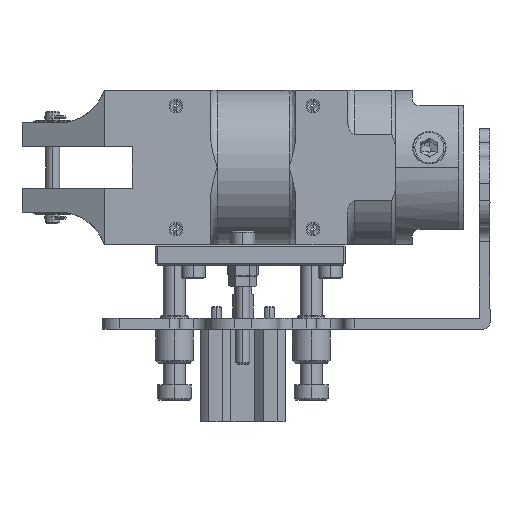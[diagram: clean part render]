
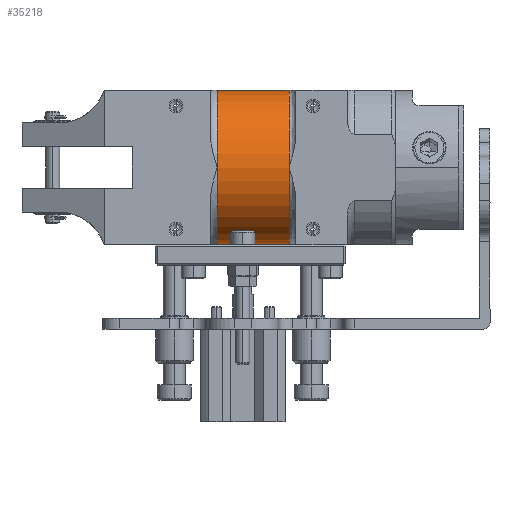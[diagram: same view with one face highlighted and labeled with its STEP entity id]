
A CAD part, left-side view. The second image highlights one B-rep face of the part: STEP entity #35218.
In plain terms, the highlighted cylindrical face has radius 22.5 mm (diameter 45 mm), a partial arc.
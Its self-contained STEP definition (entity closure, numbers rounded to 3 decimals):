
#72 = EDGE_CURVE ( 'NONE', #18204, #23416, #35655, .T. ) ;
#266 = VERTEX_POINT ( 'NONE', #23805 ) ;
#906 = DIRECTION ( 'NONE',  ( 0., 1., 0. ) ) ;
#1566 = VERTEX_POINT ( 'NONE', #16517 ) ;
#2054 = DIRECTION ( 'NONE',  ( 0., 0., 1. ) ) ;
#3197 = VECTOR ( 'NONE', #906, 1000. ) ;
#4223 = CARTESIAN_POINT ( 'NONE',  ( -2.637, 12.035, 25.5 ) ) ;
#4323 = ORIENTED_EDGE ( 'NONE', *, *, #22858, .F. ) ;
#7043 = DIRECTION ( 'NONE',  ( 0., 0., 1. ) ) ;
#9093 = AXIS2_PLACEMENT_3D ( 'NONE', #34023, #31234, #20020 ) ;
#9534 = VERTEX_POINT ( 'NONE', #36203 ) ;
#10126 = LINE ( 'NONE', #22754, #17586 ) ;
#10368 = ORIENTED_EDGE ( 'NONE', *, *, #72, .T. ) ;
#12314 = CIRCLE ( 'NONE', #29999, 22.5 ) ;
#13396 = ORIENTED_EDGE ( 'NONE', *, *, #29040, .T. ) ;
#14999 = CYLINDRICAL_SURFACE ( 'NONE', #9093, 22.5 ) ;
#15061 = CARTESIAN_POINT ( 'NONE',  ( -2.637, -8.965, 25.5 ) ) ;
#15486 = AXIS2_PLACEMENT_3D ( 'NONE', #35525, #18854, #2054 ) ;
#15550 = CIRCLE ( 'NONE', #16622, 22.5 ) ;
#16517 = CARTESIAN_POINT ( 'NONE',  ( -2.637, -8.965, 3. ) ) ;
#16622 = AXIS2_PLACEMENT_3D ( 'NONE', #15061, #34553, #17877 ) ;
#17586 = VECTOR ( 'NONE', #28215, 1000. ) ;
#17729 = CARTESIAN_POINT ( 'NONE',  ( -2.637, -8.965, 3. ) ) ;
#17877 = DIRECTION ( 'NONE',  ( 0., 0., 1. ) ) ;
#18204 = VERTEX_POINT ( 'NONE', #26219 ) ;
#18597 = ORIENTED_EDGE ( 'NONE', *, *, #23038, .T. ) ;
#18854 = DIRECTION ( 'NONE',  ( 0., -1., 0. ) ) ;
#20020 = DIRECTION ( 'NONE',  ( 0., 0., 1. ) ) ;
#21323 = EDGE_CURVE ( 'NONE', #9534, #1566, #21598, .T. ) ;
#21598 = CIRCLE ( 'NONE', #15486, 22.5 ) ;
#22754 = CARTESIAN_POINT ( 'NONE',  ( -2.637, -8.965, 48. ) ) ;
#22858 = EDGE_CURVE ( 'NONE', #266, #23416, #10126, .T. ) ;
#23038 = EDGE_CURVE ( 'NONE', #33470, #18204, #12314, .T. ) ;
#23416 = VERTEX_POINT ( 'NONE', #25752 ) ;
#23805 = CARTESIAN_POINT ( 'NONE',  ( -2.637, -8.965, 48. ) ) ;
#23837 = DIRECTION ( 'NONE',  ( 0., 1., 0. ) ) ;
#25752 = CARTESIAN_POINT ( 'NONE',  ( -2.637, 12.035, 48. ) ) ;
#26082 = ORIENTED_EDGE ( 'NONE', *, *, #28511, .F. ) ;
#26219 = CARTESIAN_POINT ( 'NONE',  ( -25.137, 12.035, 25.5 ) ) ;
#28215 = DIRECTION ( 'NONE',  ( 0., 1., 0. ) ) ;
#28511 = EDGE_CURVE ( 'NONE', #9534, #266, #15550, .T. ) ;
#29040 = EDGE_CURVE ( 'NONE', #1566, #33470, #31247, .T. ) ;
#29380 = EDGE_LOOP ( 'NONE', ( #33775, #13396, #18597, #10368, #4323, #26082 ) ) ;
#29805 = FACE_OUTER_BOUND ( 'NONE', #29380, .T. ) ;
#29999 = AXIS2_PLACEMENT_3D ( 'NONE', #4223, #23837, #7043 ) ;
#31234 = DIRECTION ( 'NONE',  ( 0., 1., 0. ) ) ;
#31247 = LINE ( 'NONE', #17729, #3197 ) ;
#31923 = AXIS2_PLACEMENT_3D ( 'NONE', #34530, #34456, #34415 ) ;
#33470 = VERTEX_POINT ( 'NONE', #35877 ) ;
#33775 = ORIENTED_EDGE ( 'NONE', *, *, #21323, .T. ) ;
#34023 = CARTESIAN_POINT ( 'NONE',  ( -2.637, -8.965, 25.5 ) ) ;
#34415 = DIRECTION ( 'NONE',  ( 0., 0., 1. ) ) ;
#34456 = DIRECTION ( 'NONE',  ( 0., 1., 0. ) ) ;
#34530 = CARTESIAN_POINT ( 'NONE',  ( -2.637, 12.035, 25.5 ) ) ;
#34553 = DIRECTION ( 'NONE',  ( 0., 1., 0. ) ) ;
#35218 = ADVANCED_FACE ( 'NONE', ( #29805 ), #14999, .F. ) ;
#35525 = CARTESIAN_POINT ( 'NONE',  ( -2.637, -8.965, 25.5 ) ) ;
#35655 = CIRCLE ( 'NONE', #31923, 22.5 ) ;
#35877 = CARTESIAN_POINT ( 'NONE',  ( -2.637, 12.035, 3. ) ) ;
#36203 = CARTESIAN_POINT ( 'NONE',  ( -25.137, -8.965, 25.5 ) ) ;
